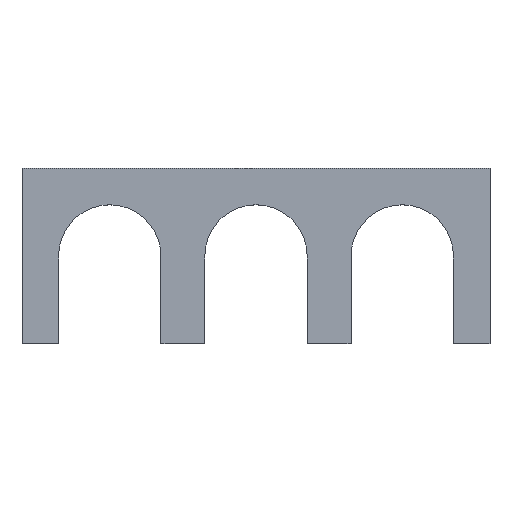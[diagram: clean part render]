
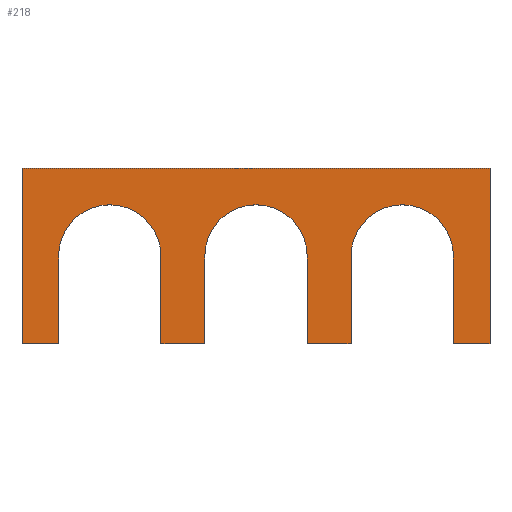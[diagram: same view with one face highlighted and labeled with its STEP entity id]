
A CAD part, top view. The second image highlights one B-rep face of the part: STEP entity #218.
In plain terms, the highlighted planar face has unit normal (0, 0, 1).
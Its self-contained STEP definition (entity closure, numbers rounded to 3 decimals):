
#61=CARTESIAN_POINT('Vertex',(3.5,0.,2.)) ;
#77=CARTESIAN_POINT('Vertex',(3.5,-6.,2.)) ;
#80=CARTESIAN_POINT('Line Origine',(3.5,-3.,2.)) ;
#92=CARTESIAN_POINT('Axis2P3D Location',(0.,0.,2.)) ;
#97=CARTESIAN_POINT('Line Origine',(-5.,-6.,2.)) ;
#101=CARTESIAN_POINT('Vertex',(-6.5,-6.,2.)) ;
#103=CARTESIAN_POINT('Vertex',(-3.5,-6.,2.)) ;
#106=CARTESIAN_POINT('Line Origine',(-3.5,-3.,2.)) ;
#110=CARTESIAN_POINT('Vertex',(-3.5,0.,2.)) ;
#113=CARTESIAN_POINT('Axis2P3D Location',(0.,0.,2.)) ;
#118=CARTESIAN_POINT('Line Origine',(5.,-6.,2.)) ;
#122=CARTESIAN_POINT('Vertex',(6.5,-6.,2.)) ;
#125=CARTESIAN_POINT('Line Origine',(6.5,-3.,2.)) ;
#129=CARTESIAN_POINT('Vertex',(6.5,0.,2.)) ;
#132=CARTESIAN_POINT('Axis2P3D Location',(10.,0.,2.)) ;
#136=CARTESIAN_POINT('Vertex',(13.5,0.,2.)) ;
#139=CARTESIAN_POINT('Line Origine',(13.5,-3.,2.)) ;
#143=CARTESIAN_POINT('Vertex',(13.5,-6.,2.)) ;
#146=CARTESIAN_POINT('Line Origine',(14.75,-6.,2.)) ;
#150=CARTESIAN_POINT('Vertex',(16.,-6.,2.)) ;
#153=CARTESIAN_POINT('Line Origine',(16.,0.,2.)) ;
#157=CARTESIAN_POINT('Vertex',(16.,6.,2.)) ;
#160=CARTESIAN_POINT('Line Origine',(0.,6.,2.)) ;
#164=CARTESIAN_POINT('Vertex',(-16.,6.,2.)) ;
#167=CARTESIAN_POINT('Line Origine',(-16.,0.,2.)) ;
#171=CARTESIAN_POINT('Vertex',(-16.,-6.,2.)) ;
#174=CARTESIAN_POINT('Line Origine',(-14.75,-6.,2.)) ;
#178=CARTESIAN_POINT('Vertex',(-13.5,-6.,2.)) ;
#181=CARTESIAN_POINT('Line Origine',(-13.5,-3.,2.)) ;
#185=CARTESIAN_POINT('Vertex',(-13.5,0.,2.)) ;
#188=CARTESIAN_POINT('Axis2P3D Location',(-10.,0.,2.)) ;
#192=CARTESIAN_POINT('Vertex',(-6.5,0.,2.)) ;
#195=CARTESIAN_POINT('Line Origine',(-6.5,-3.,2.)) ;
#81=DIRECTION('Vector Direction',(0.,1.,0.)) ;
#93=DIRECTION('Axis2P3D Direction',(0.,0.,1.)) ;
#94=DIRECTION('Axis2P3D XDirection',(1.,0.,0.)) ;
#98=DIRECTION('Vector Direction',(-1.,0.,0.)) ;
#107=DIRECTION('Vector Direction',(0.,1.,0.)) ;
#114=DIRECTION('Axis2P3D Direction',(0.,0.,1.)) ;
#119=DIRECTION('Vector Direction',(-1.,0.,0.)) ;
#126=DIRECTION('Vector Direction',(0.,1.,0.)) ;
#133=DIRECTION('Axis2P3D Direction',(0.,0.,1.)) ;
#140=DIRECTION('Vector Direction',(0.,1.,0.)) ;
#147=DIRECTION('Vector Direction',(-1.,0.,0.)) ;
#154=DIRECTION('Vector Direction',(0.,1.,0.)) ;
#161=DIRECTION('Vector Direction',(1.,0.,0.)) ;
#168=DIRECTION('Vector Direction',(0.,-1.,0.)) ;
#175=DIRECTION('Vector Direction',(-1.,0.,0.)) ;
#182=DIRECTION('Vector Direction',(0.,1.,0.)) ;
#189=DIRECTION('Axis2P3D Direction',(0.,0.,1.)) ;
#196=DIRECTION('Vector Direction',(0.,1.,0.)) ;
#95=AXIS2_PLACEMENT_3D('Plane Axis2P3D',#92,#93,#94) ;
#115=AXIS2_PLACEMENT_3D('Circle Axis2P3D',#113,#114,$) ;
#134=AXIS2_PLACEMENT_3D('Circle Axis2P3D',#132,#133,$) ;
#190=AXIS2_PLACEMENT_3D('Circle Axis2P3D',#188,#189,$) ;
#201=ORIENTED_EDGE('',*,*,#105,.T.) ;
#202=ORIENTED_EDGE('',*,*,#112,.T.) ;
#203=ORIENTED_EDGE('',*,*,#117,.F.) ;
#204=ORIENTED_EDGE('',*,*,#84,.F.) ;
#205=ORIENTED_EDGE('',*,*,#124,.T.) ;
#206=ORIENTED_EDGE('',*,*,#131,.T.) ;
#207=ORIENTED_EDGE('',*,*,#138,.F.) ;
#208=ORIENTED_EDGE('',*,*,#145,.F.) ;
#209=ORIENTED_EDGE('',*,*,#152,.T.) ;
#210=ORIENTED_EDGE('',*,*,#159,.T.) ;
#211=ORIENTED_EDGE('',*,*,#166,.T.) ;
#212=ORIENTED_EDGE('',*,*,#173,.T.) ;
#213=ORIENTED_EDGE('',*,*,#180,.T.) ;
#214=ORIENTED_EDGE('',*,*,#187,.T.) ;
#215=ORIENTED_EDGE('',*,*,#194,.F.) ;
#216=ORIENTED_EDGE('',*,*,#199,.F.) ;
#82=VECTOR('Line Direction',#81,1.) ;
#99=VECTOR('Line Direction',#98,1.) ;
#108=VECTOR('Line Direction',#107,1.) ;
#120=VECTOR('Line Direction',#119,1.) ;
#127=VECTOR('Line Direction',#126,1.) ;
#141=VECTOR('Line Direction',#140,1.) ;
#148=VECTOR('Line Direction',#147,1.) ;
#155=VECTOR('Line Direction',#154,1.) ;
#162=VECTOR('Line Direction',#161,1.) ;
#169=VECTOR('Line Direction',#168,1.) ;
#176=VECTOR('Line Direction',#175,1.) ;
#183=VECTOR('Line Direction',#182,1.) ;
#197=VECTOR('Line Direction',#196,1.) ;
#218=ADVANCED_FACE('PartBody',(#217),#96,.T.) ;
#116=CIRCLE('generated circle',#115,3.5) ;
#135=CIRCLE('generated circle',#134,3.5) ;
#191=CIRCLE('generated circle',#190,3.5) ;
#84=EDGE_CURVE('',#78,#62,#83,.T.) ;
#105=EDGE_CURVE('',#102,#104,#100,.F.) ;
#112=EDGE_CURVE('',#104,#111,#109,.T.) ;
#117=EDGE_CURVE('',#62,#111,#116,.T.) ;
#124=EDGE_CURVE('',#78,#123,#121,.F.) ;
#131=EDGE_CURVE('',#123,#130,#128,.T.) ;
#138=EDGE_CURVE('',#137,#130,#135,.T.) ;
#145=EDGE_CURVE('',#144,#137,#142,.T.) ;
#152=EDGE_CURVE('',#144,#151,#149,.F.) ;
#159=EDGE_CURVE('',#151,#158,#156,.T.) ;
#166=EDGE_CURVE('',#158,#165,#163,.F.) ;
#173=EDGE_CURVE('',#165,#172,#170,.T.) ;
#180=EDGE_CURVE('',#172,#179,#177,.F.) ;
#187=EDGE_CURVE('',#179,#186,#184,.T.) ;
#194=EDGE_CURVE('',#193,#186,#191,.T.) ;
#199=EDGE_CURVE('',#102,#193,#198,.T.) ;
#200=EDGE_LOOP('',(#201,#202,#203,#204,#205,#206,#207,#208,#209,#210,#211,#212,#213,#214,#215,#216)) ;
#217=FACE_OUTER_BOUND('',#200,.T.) ;
#83=LINE('Line',#80,#82) ;
#100=LINE('Line',#97,#99) ;
#109=LINE('Line',#106,#108) ;
#121=LINE('Line',#118,#120) ;
#128=LINE('Line',#125,#127) ;
#142=LINE('Line',#139,#141) ;
#149=LINE('Line',#146,#148) ;
#156=LINE('Line',#153,#155) ;
#163=LINE('Line',#160,#162) ;
#170=LINE('Line',#167,#169) ;
#177=LINE('Line',#174,#176) ;
#184=LINE('Line',#181,#183) ;
#198=LINE('Line',#195,#197) ;
#96=PLANE('Plane',#95) ;
#62=VERTEX_POINT('',#61) ;
#78=VERTEX_POINT('',#77) ;
#102=VERTEX_POINT('',#101) ;
#104=VERTEX_POINT('',#103) ;
#111=VERTEX_POINT('',#110) ;
#123=VERTEX_POINT('',#122) ;
#130=VERTEX_POINT('',#129) ;
#137=VERTEX_POINT('',#136) ;
#144=VERTEX_POINT('',#143) ;
#151=VERTEX_POINT('',#150) ;
#158=VERTEX_POINT('',#157) ;
#165=VERTEX_POINT('',#164) ;
#172=VERTEX_POINT('',#171) ;
#179=VERTEX_POINT('',#178) ;
#186=VERTEX_POINT('',#185) ;
#193=VERTEX_POINT('',#192) ;
